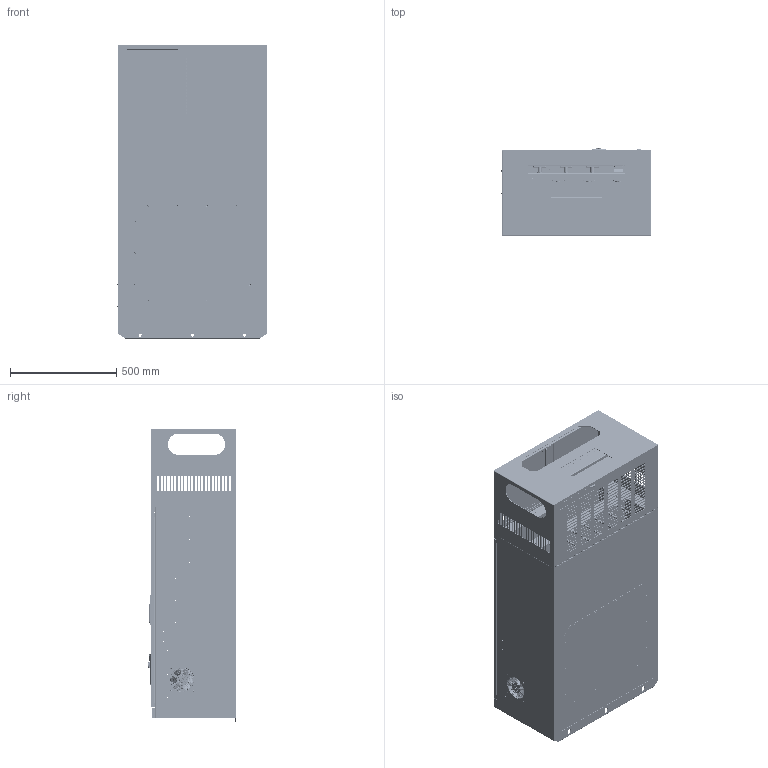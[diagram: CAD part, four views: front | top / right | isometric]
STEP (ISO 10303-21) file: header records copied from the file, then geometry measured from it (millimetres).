
FILE_DESCRIPTION((''),'2;1');
FILE_NAME('00-KC500X-280-315KW_ASM_16_ASM__ASM','2024-08-16T',('Administrator'),(''),'PRO/ENGINEER BY PARAMETRIC TECHNOLOGY CORPORATION, 2010280','PRO/ENGINEER BY PARAMETRIC TECHNOLOGY CORPORATION, 2010280','');
FILE_SCHEMA(('AUTOMOTIVE_DESIGN { 1 0 10303 214 1 1 1 1 }'));
Products named in the file (130): KC500X-315-01-01-01_16_1; S-M5-280_1_1; S-M6-ZC_2_1; KC500X-315-01-01-01_ASM_8_ASM_1_ASM; KC500X-315-01-01-02_14_1; KC500X-315-01-01-02_ASM_6_ASM_1_ASM; KC500X-315-01-01-03_13_1; KC500X-315-01-01-03_ASM_5_ASM_1_ASM; KC500X-315-01-01-04_14_1; KC500X-315-01-01-04_ASM_6_ASM_1_ASM; KC500X-315-01-01-05_29_1; BSO-M3-10-280_1_1; FH-M5-12_1_1; S-M4-ZC_1_1; KC500X-315-01-01-05_ASM_8_ASM_1_ASM; KC500X-315-01-01-09_10_1; KC500X-315-01-01-09_ASM_5_ASM_1_ASM; KC500X-315-01-01-10_8_1; KC500X-315-01-01-10_ASM_5_ASM_1_ASM; KC500X-315-01-01-11_8_1; KC500X-315-01-01-11_ASM_6_ASM_1_ASM; KC500X-315-01-01-12_13_1; KC500X-315-01-01-12_ASM_6_ASM_1_ASM; KC500X-315-01-01-13_6_1; KC500X-315-01-01-13_ASM_9_ASM_1_ASM; KC500X-315-01-01-14_6_1; KC500X-315-01-01-14_ASM_9_ASM_1_ASM; KC500X-315-01-01-15_6_1; KC500X-315-01-01-15_ASM_9_ASM_1_ASM; KC500X-315-01-01-17_18_1; KC500X-315-01-01-17_ASM_4_ASM_1_ASM; KC500X-315-01-01-18_7_1; KC500X-315-01-01-19_3_1; KC500X-315-01-01_ASM_18_ASM_1_ASM; KC500X-315-01-02-01_4_1; KC500X-315-01-02_ASM_9_ASM_1_ASM; KC500X-315-01-03_11_1; KC500X-315-01-03_ASM_24_ASM_1_ASM; KC500X-315-01-05_16_1; KC500X-315-01-07_23_1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
Assembly tree (260 placements, depth 7):
  00-KC500X-280-315KW_ASM_16_ASM__ASM
    KC500X-315-01_ASM_120_ASM_1_ASM
      KC500X-315-01-01_ASM_18_ASM_1_ASM
        KC500X-315-01-01-01_ASM_8_ASM_1_ASM
          KC500X-315-01-01-01_16_1
          S-M5-280_1_1  x14
          S-M6-ZC_2_1  x4
        KC500X-315-01-01-02_ASM_6_ASM_1_ASM
          KC500X-315-01-01-02_14_1
          S-M6-ZC_2_1  x4
        KC500X-315-01-01-03_ASM_5_ASM_1_ASM
          KC500X-315-01-01-03_13_1
          S-M6-ZC_2_1  x4
        KC500X-315-01-01-04_ASM_6_ASM_1_ASM
          KC500X-315-01-01-04_14_1
          S-M6-ZC_2_1  x8
          S-M5-280_1_1
        KC500X-315-01-01-05_ASM_8_ASM_1_ASM
          KC500X-315-01-01-05_29_1
          BSO-M3-10-280_1_1  x12
          FH-M5-12_1_1  x2
          S-M4-ZC_1_1  x2
          S-M5-280_1_1  x2
        KC500X-315-01-01-09_ASM_5_ASM_1_ASM
          KC500X-315-01-01-09_10_1
          S-M5-280_1_1  x2
        KC500X-315-01-01-10_ASM_5_ASM_1_ASM
          KC500X-315-01-01-10_8_1
          S-M5-280_1_1  x2
        KC500X-315-01-01-11_ASM_6_ASM_1_ASM
          KC500X-315-01-01-11_8_1
          S-M5-280_1_1  x2
        KC500X-315-01-01-12_ASM_6_ASM_1_ASM
          KC500X-315-01-01-12_13_1
          S-M5-280_1_1  x2
        KC500X-315-01-01-13_ASM_9_ASM_1_ASM
          KC500X-315-01-01-13_6_1
          S-M5-280_1_1  x2
        KC500X-315-01-01-14_ASM_9_ASM_1_ASM
          KC500X-315-01-01-14_6_1
          S-M5-280_1_1  x2
        KC500X-315-01-01-15_ASM_9_ASM_1_ASM  x2
          KC500X-315-01-01-15_6_1
          S-M5-280_1_1
        KC500X-315-01-01-17_ASM_4_ASM_1_ASM
          KC500X-315-01-01-17_18_1
          S-M5-280_1_1  x6
        KC500X-315-01-01-18_7_1
        KC500X-315-01-01-19_3_1
      KC500X-315-01-02_ASM_9_ASM_1_ASM
        KC500X-315-01-02-01_4_1
      KC500X-315-01-03_ASM_24_ASM_1_ASM
        KC500X-315-01-03_11_1
        S-M4-ZC_1_1  x8
      KC500X-315-01-05_16_1
      KC500X-315-01-07_ASM_22_ASM_1_ASM
        KC500X-315-01-07_23_1
        FH-M6-12__1_1  x6
        NZ-M6-ZC_4_1  x2
      KC500X-315-01-08_ASM_34_ASM_1_ASM
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Bounding box: 703.83 x 416.3 x 1382 mm (x, y, z)
Volume: 11293111.4 mm3; surface area: 11609918.1 mm2
Topology: 227 solids, 228 shells, 30914 faces, 86159 edges, 56947 vertices
Faces by surface type: plane 26117, cylinder 3049, cone 1220, torus 255, bspline 237, sphere 34, extrusion 2
Entity records: 328586 total; most frequent: CARTESIAN_POINT 63533, ORIENTED_EDGE 45309, DIRECTION 44466, EDGE_CURVE 22659, VECTOR 16536, LINE 16534, VERTEX_POINT 14743, AXIS2_PLACEMENT_3D 13965
